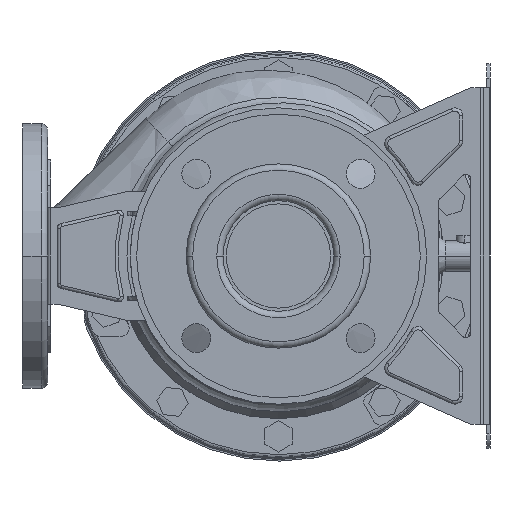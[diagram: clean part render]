
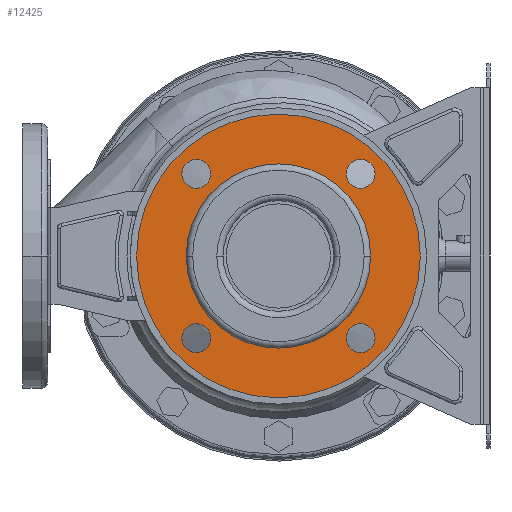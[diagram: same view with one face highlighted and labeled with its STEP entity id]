
A CAD part, left-side view. The second image highlights one B-rep face of the part: STEP entity #12425.
In plain terms, the highlighted planar face has unit normal (-1, 0, 0).
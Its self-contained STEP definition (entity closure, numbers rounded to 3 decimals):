
#11758=CARTESIAN_POINT('',(12.,0.,0.));
#11759=DIRECTION('',(-1.,0.,0.));
#11760=DIRECTION('',(0.,1.,0.));
#11761=AXIS2_PLACEMENT_3D('',#11758,#11759,#11760);
#11766=CARTESIAN_POINT('',(12.,0.,0.));
#11767=DIRECTION('',(1.,0.,0.));
#11768=DIRECTION('',(0.,1.,0.));
#11769=AXIS2_PLACEMENT_3D('',#11766,#11767,#11768);
#11774=CARTESIAN_POINT('',(12.,-51.265,51.265));
#11775=DIRECTION('',(1.,0.,0.));
#11776=DIRECTION('',(0.,1.,0.));
#11777=AXIS2_PLACEMENT_3D('',#11774,#11775,#11776);
#11782=CARTESIAN_POINT('',(12.,-51.265,51.265));
#11783=DIRECTION('',(1.,0.,0.));
#11784=DIRECTION('',(0.,-1.,0.));
#11785=AXIS2_PLACEMENT_3D('',#11782,#11783,#11784);
#11790=CARTESIAN_POINT('',(12.,-51.265,-51.265));
#11791=DIRECTION('',(1.,0.,0.));
#11792=DIRECTION('',(0.,0.,1.));
#11793=AXIS2_PLACEMENT_3D('',#11790,#11791,#11792);
#11798=CARTESIAN_POINT('',(12.,-51.265,-51.265));
#11799=DIRECTION('',(1.,0.,0.));
#11800=DIRECTION('',(0.,0.,-1.));
#11801=AXIS2_PLACEMENT_3D('',#11798,#11799,#11800);
#11806=CARTESIAN_POINT('',(12.,51.265,-51.265));
#11807=DIRECTION('',(1.,0.,0.));
#11808=DIRECTION('',(0.,-1.,0.));
#11809=AXIS2_PLACEMENT_3D('',#11806,#11807,#11808);
#11814=CARTESIAN_POINT('',(12.,51.265,-51.265));
#11815=DIRECTION('',(1.,0.,0.));
#11816=DIRECTION('',(0.,1.,0.));
#11817=AXIS2_PLACEMENT_3D('',#11814,#11815,#11816);
#11822=CARTESIAN_POINT('',(12.,51.265,51.265));
#11823=DIRECTION('',(1.,0.,0.));
#11824=DIRECTION('',(0.,0.,-1.));
#11825=AXIS2_PLACEMENT_3D('',#11822,#11823,#11824);
#11830=CARTESIAN_POINT('',(12.,51.265,51.265));
#11831=DIRECTION('',(1.,0.,0.));
#11832=DIRECTION('',(0.,0.,1.));
#11833=AXIS2_PLACEMENT_3D('',#11830,#11831,#11832);
#11838=CARTESIAN_POINT('',(12.,0.,0.));
#11839=DIRECTION('',(1.,0.,0.));
#11840=DIRECTION('',(0.,1.,0.));
#11841=AXIS2_PLACEMENT_3D('',#11838,#11839,#11840);
#11860=CARTESIAN_POINT('',(12.,0.,0.));
#11861=DIRECTION('',(-1.,0.,0.));
#11862=DIRECTION('',(0.,1.,0.));
#11863=AXIS2_PLACEMENT_3D('',#11860,#11861,#11862);
#12025=CARTESIAN_POINT('',(12.,88.5,0.));
#12027=VERTEX_POINT('',#12025);
#12028=CARTESIAN_POINT('',(12.,57.5,0.));
#12030=VERTEX_POINT('',#12028);
#12057=CARTESIAN_POINT('',(12.,-88.5,0.));
#12059=VERTEX_POINT('',#12057);
#12060=CARTESIAN_POINT('',(12.,-57.5,0.));
#12062=VERTEX_POINT('',#12060);
#12072=CARTESIAN_POINT('',(12.,-42.265,51.265));
#12073=CARTESIAN_POINT('',(12.,-60.265,51.265));
#12074=VERTEX_POINT('',#12072);
#12075=VERTEX_POINT('',#12073);
#12080=CARTESIAN_POINT('',(12.,-51.265,-42.265));
#12081=CARTESIAN_POINT('',(12.,-51.265,-60.265));
#12082=VERTEX_POINT('',#12080);
#12083=VERTEX_POINT('',#12081);
#12088=CARTESIAN_POINT('',(12.,42.265,-51.265));
#12089=CARTESIAN_POINT('',(12.,60.265,-51.265));
#12090=VERTEX_POINT('',#12088);
#12091=VERTEX_POINT('',#12089);
#12096=CARTESIAN_POINT('',(12.,51.265,42.265));
#12097=CARTESIAN_POINT('',(12.,51.265,60.265));
#12098=VERTEX_POINT('',#12096);
#12099=VERTEX_POINT('',#12097);
#12386=CARTESIAN_POINT('',(12.,0.,0.));
#12387=DIRECTION('',(1.,0.,0.));
#12388=DIRECTION('',(0.,-1.,0.));
#12389=AXIS2_PLACEMENT_3D('',#12386,#12387,#12388);
#12390=PLANE('',#12389);
#12391=ORIENTED_EDGE('',*,*,#12379,.F.);
#12392=ORIENTED_EDGE('',*,*,#12368,.T.);
#12393=EDGE_LOOP('',(#12391,#12392));
#12394=FACE_OUTER_BOUND('',#12393,.F.);
#12396=ORIENTED_EDGE('',*,*,#12395,.F.);
#12398=ORIENTED_EDGE('',*,*,#12397,.T.);
#12399=EDGE_LOOP('',(#12396,#12398));
#12400=FACE_BOUND('',#12399,.F.);
#12402=ORIENTED_EDGE('',*,*,#12401,.F.);
#12404=ORIENTED_EDGE('',*,*,#12403,.F.);
#12405=EDGE_LOOP('',(#12402,#12404));
#12406=FACE_BOUND('',#12405,.F.);
#12408=ORIENTED_EDGE('',*,*,#12407,.F.);
#12410=ORIENTED_EDGE('',*,*,#12409,.F.);
#12411=EDGE_LOOP('',(#12408,#12410));
#12412=FACE_BOUND('',#12411,.F.);
#12414=ORIENTED_EDGE('',*,*,#12413,.F.);
#12416=ORIENTED_EDGE('',*,*,#12415,.F.);
#12417=EDGE_LOOP('',(#12414,#12416));
#12418=FACE_BOUND('',#12417,.F.);
#12420=ORIENTED_EDGE('',*,*,#12419,.F.);
#12422=ORIENTED_EDGE('',*,*,#12421,.F.);
#12423=EDGE_LOOP('',(#12420,#12422));
#12424=FACE_BOUND('',#12423,.F.);
#11762=CIRCLE('',#11761,88.5);
#11770=CIRCLE('',#11769,88.5);
#11778=CIRCLE('',#11777,9.);
#11786=CIRCLE('',#11785,9.);
#11794=CIRCLE('',#11793,9.);
#11802=CIRCLE('',#11801,9.);
#11810=CIRCLE('',#11809,9.);
#11818=CIRCLE('',#11817,9.);
#11826=CIRCLE('',#11825,9.);
#11834=CIRCLE('',#11833,9.);
#11842=CIRCLE('',#11841,57.5);
#11864=CIRCLE('',#11863,57.5);
#12368=EDGE_CURVE('',#12027,#12059,#11770,.T.);
#12379=EDGE_CURVE('',#12027,#12059,#11762,.T.);
#12395=EDGE_CURVE('',#12030,#12062,#11842,.T.);
#12397=EDGE_CURVE('',#12030,#12062,#11864,.T.);
#12401=EDGE_CURVE('',#12074,#12075,#11778,.T.);
#12403=EDGE_CURVE('',#12075,#12074,#11786,.T.);
#12407=EDGE_CURVE('',#12082,#12083,#11794,.T.);
#12409=EDGE_CURVE('',#12083,#12082,#11802,.T.);
#12413=EDGE_CURVE('',#12090,#12091,#11810,.T.);
#12415=EDGE_CURVE('',#12091,#12090,#11818,.T.);
#12419=EDGE_CURVE('',#12098,#12099,#11826,.T.);
#12421=EDGE_CURVE('',#12099,#12098,#11834,.T.);
#12425=ADVANCED_FACE('',(#12394,#12400,#12406,#12412,#12418,#12424),#12390,.F.);
